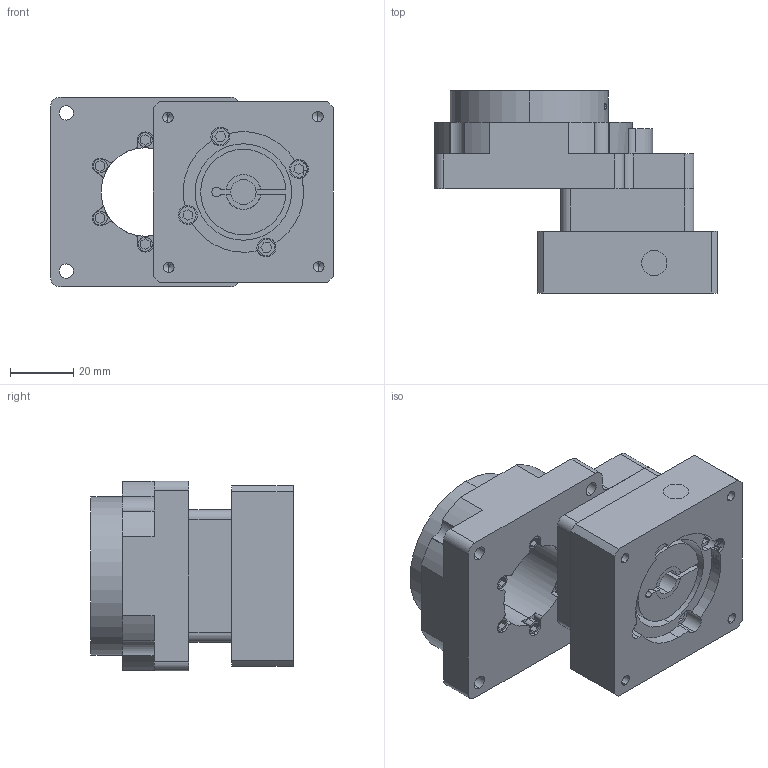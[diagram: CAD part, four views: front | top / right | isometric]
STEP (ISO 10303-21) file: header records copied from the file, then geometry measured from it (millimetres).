
FILE_DESCRIPTION (( 'STEP AP203' ), '1' );
FILE_NAME ('NT60-10-B2耀倰(饜57祭輛喜渡).STEP', '2025-04-28T03:24:03', ( 'Windows User' ), ( 'P R C' ), 'SwSTEP 2.0', 'SolidWorks 2016', '' );
FILE_SCHEMA (( 'CONFIG_CONTROL_DESIGN' ));
Length unit declared in the file: millimetre
Products named in the file (1): NT60-10-B2耀倰(饜57祭輛喜渡)
Bounding box: 89.5 x 64 x 60 mm (x, y, z)
Volume: 155445.9 mm3; surface area: 39210 mm2
Topology: 2 solids, 51 shells, 1270 faces, 3335 edges, 2196 vertices
Faces by surface type: plane 841, bspline 210, cylinder 183, cone 36
Entity records: 46504 total; most frequent: CARTESIAN_POINT 16286, ORIENTED_EDGE 6598, DIRECTION 5405, EDGE_CURVE 3299, LINE 2421, VECTOR 2421, VERTEX_POINT 2196, AXIS2_PLACEMENT_3D 1492
